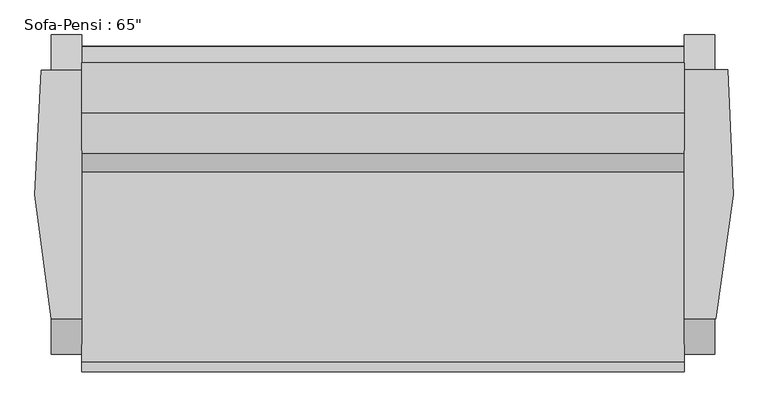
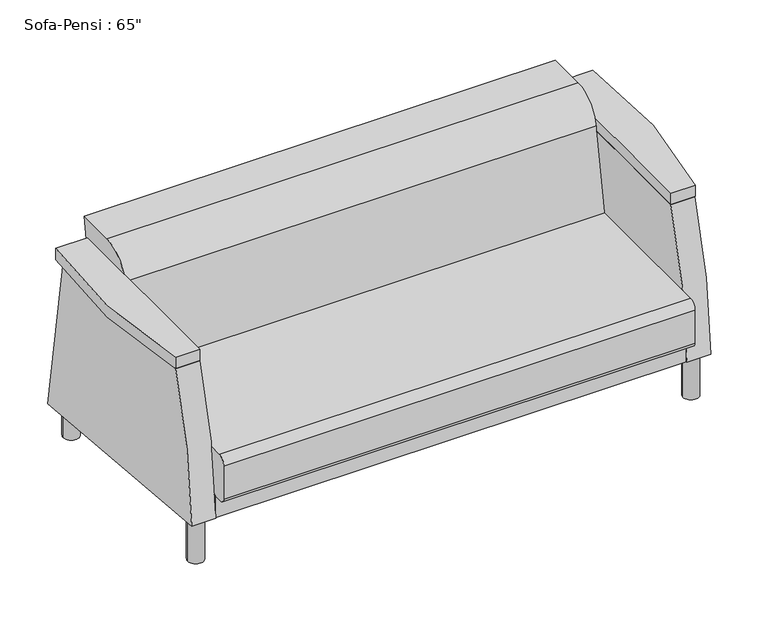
"""IFC4 building model written with IfcOpenShell, lengths in millimetres: furniture geometry."""

from ifc_helpers import new_model, si_unit, point, frame, frame_2d, origin, origin_with_axes, place, context, project, spatial, polyline, circle_curve, trimmed, segment, composite_curve, outline, extrude, source, transform, mapped, element, save


def furniture_ad7727fe(model_context):
    return source(origin(), model_context, "Body", "SweptSolid", [
        extrude(outline(composite_curve([segment(trimmed(circle_curve(frame_2d((-508.79375, -53.0901639)), 25.4), [point((-534.19375, -53.0901639))], [point((-483.39375, -53.0901639))], False, "CARTESIAN"), True, "CONTINUOUS"), segment(trimmed(circle_curve(frame_2d((-508.79375, -53.0901639)), 25.4), [point((-483.39375, -53.0901639))], [point((-534.19375, -53.0901639))], False, "CARTESIAN"), True, "CONTINUOUS")], self_intersect=False)), origin_with_axes(), (0.0, 0.0, 1.0), 148.43125),
        extrude(outline(composite_curve([segment(trimmed(circle_curve(frame_2d((-508.79375, 632.7098361)), 25.4), [point((-534.19375, 632.7098361))], [point((-483.39375, 632.7098361))], False, "CARTESIAN"), True, "CONTINUOUS"), segment(trimmed(circle_curve(frame_2d((-508.79375, 632.7098361)), 25.4), [point((-483.39375, 632.7098361))], [point((-534.19375, 632.7098361))], False, "CARTESIAN"), True, "CONTINUOUS")], self_intersect=False)), origin_with_axes(), (0.0, 0.0, 1.0), 148.43125),
        extrude(outline(composite_curve([segment(trimmed(circle_curve(frame_2d((1066.00625, 632.7098361)), 25.4), [point((1040.60625, 632.7098361))], [point((1091.40625, 632.7098361))], False, "CARTESIAN"), True, "CONTINUOUS"), segment(trimmed(circle_curve(frame_2d((1066.00625, 632.7098361)), 25.4), [point((1091.40625, 632.7098361))], [point((1040.60625, 632.7098361))], False, "CARTESIAN"), True, "CONTINUOUS")], self_intersect=False)), origin_with_axes(), (0.0, 0.0, 1.0), 148.43125),
        extrude(outline(composite_curve([segment(trimmed(circle_curve(frame_2d((1066.00625, -53.0901639)), 25.4), [point((1040.60625, -53.0901639))], [point((1091.40625, -53.0901639))], False, "CARTESIAN"), True, "CONTINUOUS"), segment(trimmed(circle_curve(frame_2d((1066.00625, -53.0901639)), 25.4), [point((1091.40625, -53.0901639))], [point((1040.60625, -53.0901639))], False, "CARTESIAN"), True, "CONTINUOUS")], self_intersect=False)), origin_with_axes(), (0.0, 0.0, 1.0), 148.43125),
        extrude(outline(polyline([(1027.90625, 668.3047863), (1027.90625, -93.6952137), (-470.69375, -93.6952137), (-470.69375, 668.3047863), (1027.90625, 668.3047863)])), frame((0.0, 0.0, 148.0509954), z_axis=(0.0, 0.0, 1.0), x_axis=(1.0, 0.0, 0.0)), (0.0, 0.0, 1.0), 76.2),
        extrude(outline(composite_curve([segment(polyline([(-9.3943348, 626.0203985), (608.6917937, 626.0203985), (696.2098361, 79.844579), (-97.7900405, 149.3105671)]), True, "CONTINUOUS"), segment(trimmed(circle_curve(frame_2d((1499.9783711, 99.5888442)), 1598.5418814), [point((-97.7900405, 149.3105671))], [point((-9.3943348, 626.0203985))], False, "CARTESIAN"), True, "CONTINUOUS")], self_intersect=False)), frame((-546.89375, 0.0, 0.0), z_axis=(1.0, 0.0, 0.0), x_axis=(0.0, 1.0, 0.0)), (0.0, 0.0, 1.0), 76.2),
        extrude(outline(composite_curve([segment(polyline([(696.2098361, 79.844579), (-97.7900405, 149.3105671)]), True, "CONTINUOUS"), segment(trimmed(circle_curve(frame_2d((1499.9783711, 99.5888442)), 1598.5418814), [point((-97.7900405, 149.3105671))], [point((-9.3943348, 626.0203985))], False, "CARTESIAN"), True, "CONTINUOUS"), segment(polyline([(-9.3943348, 626.0203985), (608.6917937, 626.0203985), (696.2098361, 79.844579)]), True, "CONTINUOUS")], self_intersect=False)), frame((1027.90625, 0.0, 0.0), z_axis=(1.0, 0.0, 0.0), x_axis=(0.0, 1.0, 0.0)), (0.0, 0.0, 1.0), 76.2),
        extrude(outline(composite_curve([segment(trimmed(circle_curve(frame_2d((-116.5901639, 351.2509954)), 25.4), [point((-141.9901639, 351.2509954))], [point((-116.5901639, 376.6509954))], False, "CARTESIAN"), True, "CONTINUOUS"), segment(polyline([(-116.5901639, 376.6509954), (355.3895541, 376.6509954), (402.1988177, 642.1195211)]), True, "CONTINUOUS"), segment(trimmed(circle_curve(frame_2d((502.2552854, 624.4768662)), 101.6), [point((402.1988177, 642.1195211))], [point((502.2552854, 726.0768662))], False, "CARTESIAN"), True, "CONTINUOUS"), segment(polyline([(502.2552854, 726.0768662), (626.3344485, 726.0768662), (609.5377828, 620.1719187), (667.6541767, 224.2509954), (-126.1151639, 224.2509954)]), True, "CONTINUOUS"), segment(trimmed(circle_curve(frame_2d((-126.1151639, 240.1259954)), 15.875), [point((-126.1151639, 224.2509954))], [point((-141.9901639, 240.1259954))], False, "CARTESIAN"), True, "CONTINUOUS"), segment(polyline([(-141.9901639, 240.1259954), (-141.9901639, 351.2509954)]), True, "CONTINUOUS")], self_intersect=False)), frame((-470.69375, 0.0, 0.0), z_axis=(1.0, 0.0, 0.0), x_axis=(0.0, 1.0, 0.0)), (0.0, 0.0, 1.0), 1498.6),
        extrude(outline(composite_curve([segment(polyline([(-470.69375, -9.3943348), (-546.89375, -9.3943348)]), True, "CONTINUOUS"), segment(trimmed(circle_curve(frame_2d((1138.2527561, 369.4210463)), 1727.2), [point((-546.89375, -9.3943348))], [point((-572.29375, 608.6917935))], False, "CARTESIAN"), True, "CONTINUOUS"), segment(polyline([(-572.29375, 608.6917935), (-470.69375, 608.6917935), (-470.69375, -9.3943348)]), True, "CONTINUOUS")], self_intersect=False)), frame((0.0, 0.0, 626.0203985), z_axis=(0.0, 0.0, 1.0), x_axis=(1.0, 0.0, 0.0)), (0.0, 0.0, 1.0), 38.1),
        extrude(outline(composite_curve([segment(polyline([(1027.90625, -9.3943348), (1027.90625, 608.9395268), (1136.5864453, 608.9395268)]), True, "CONTINUOUS"), segment(trimmed(circle_curve(frame_2d((-580.0771494, 383.3125476)), 1731.4275703), [point((1136.5864453, 608.9395268))], [point((1106.2273117, -9.3943348))], False, "CARTESIAN"), True, "CONTINUOUS"), segment(polyline([(1106.2273117, -9.3943348), (1027.90625, -9.3943348)]), True, "CONTINUOUS")], self_intersect=False)), frame((0.0, 0.0, 626.0203985), z_axis=(0.0, 0.0, 1.0), x_axis=(1.0, 0.0, 0.0)), (0.0, 0.0, 1.0), 38.1),
    ])


if __name__ == "__main__":
    model = new_model("IFC4")
    model_context = context("Model", 3, world=origin())
    ifc_project = project(units=[si_unit("LENGTHUNIT", "METRE", prefix="MILLI")], contexts=[model_context])
    site = spatial("IfcSite", under=ifc_project)
    building = spatial("IfcBuilding", under=site)
    placement = place(None, origin())
    furniture_shape = furniture_ad7727fe(model_context)
    element("IfcFurniture", 1, ObjectType="Sofa-Pensi : 65\"", at=placement, inside=building, context=model_context, shape_type="MappedRepresentation", body=[
        mapped(furniture_shape, transform((0.0, 0.0, 0.0), x_axis=(1.0, 0.0, 0.0), y_axis=(0.0, 1.0, 0.0), z_axis=(0.0, 0.0, 1.0))),
    ])
    save(model, "model.ifc")
